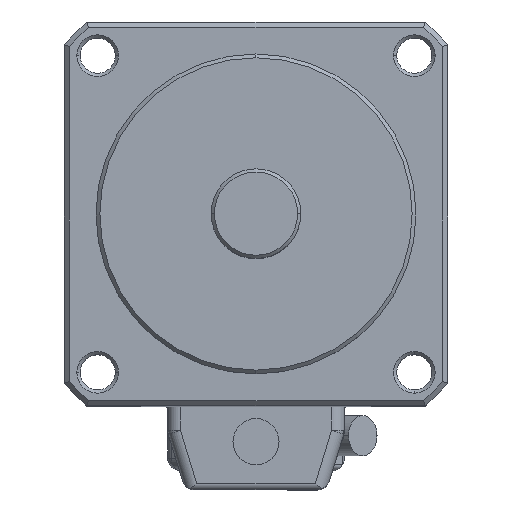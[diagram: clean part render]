
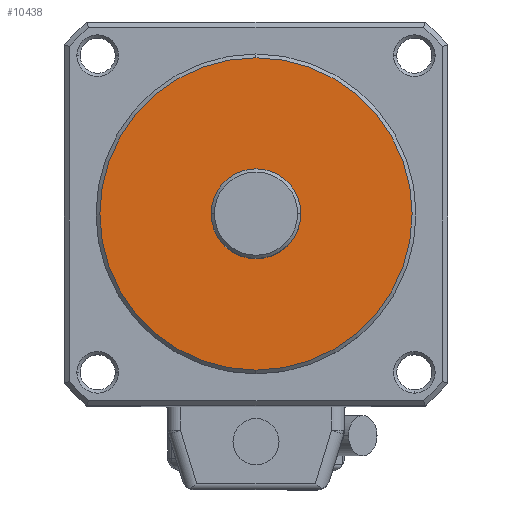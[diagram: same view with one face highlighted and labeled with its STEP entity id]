
A CAD part, top view. The second image highlights one B-rep face of the part: STEP entity #10438.
In plain terms, the highlighted planar face has unit normal (0, 0, 1).
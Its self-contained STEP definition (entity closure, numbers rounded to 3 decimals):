
#356 = AXIS2_PLACEMENT_3D ( 'NONE', #15654, #15655, #15656 ) ;
#371 = AXIS2_PLACEMENT_3D ( 'NONE', #15735, #15736, #15737 ) ;
#827 = CIRCLE ( 'NONE', #371, 24.4 ) ;
#2071 = CIRCLE ( 'NONE', #10970, 24.4 ) ;
#3219 = CARTESIAN_POINT ( 'NONE',  ( 0., 24.4, 3. ) ) ;
#3220 = CARTESIAN_POINT ( 'NONE',  ( 0., -24.4, 3. ) ) ;
#3243 = CARTESIAN_POINT ( 'NONE',  ( -7., 0., 3. ) ) ;
#3244 = CARTESIAN_POINT ( 'NONE',  ( 7., 0., 3. ) ) ;
#4892 = EDGE_CURVE ( 'NONE', #16679, #16678, #9647, .T. ) ;
#4929 = EDGE_CURVE ( 'NONE', #16655, #16654, #2071, .T. ) ;
#5840 = CARTESIAN_POINT ( 'NONE',  ( 0., 0., 3. ) ) ;
#5842 = DIRECTION ( 'NONE',  ( 0., 0., -1. ) ) ;
#5843 = DIRECTION ( 'NONE',  ( 0., 1., 0. ) ) ;
#6091 = AXIS2_PLACEMENT_3D ( 'NONE', #8590, #8591, #8592 ) ;
#7216 = FACE_BOUND ( 'NONE', #9211, .T. ) ;
#7218 = FACE_OUTER_BOUND ( 'NONE', #9210, .T. ) ;
#7712 = CIRCLE ( 'NONE', #356, 7. ) ;
#8589 = PLANE ( 'NONE',  #6091 ) ;
#8590 = CARTESIAN_POINT ( 'NONE',  ( -25.62, -25.62, 3. ) ) ;
#8591 = DIRECTION ( 'NONE',  ( 0., 0., 1. ) ) ;
#8592 = DIRECTION ( 'NONE',  ( 1., 0., 0. ) ) ;
#9210 = EDGE_LOOP ( 'NONE', ( #10018, #10019 ) ) ;
#9211 = EDGE_LOOP ( 'NONE', ( #10016, #10017 ) ) ;
#9289 = CARTESIAN_POINT ( 'NONE',  ( 0., 0., 3. ) ) ;
#9290 = DIRECTION ( 'NONE',  ( 0., 0., -1. ) ) ;
#9291 = DIRECTION ( 'NONE',  ( 1., 0., 0. ) ) ;
#9647 = CIRCLE ( 'NONE', #10949, 7. ) ;
#10016 = ORIENTED_EDGE ( 'NONE', *, *, #4892, .T. ) ;
#10017 = ORIENTED_EDGE ( 'NONE', *, *, #10695, .T. ) ;
#10018 = ORIENTED_EDGE ( 'NONE', *, *, #10728, .F. ) ;
#10019 = ORIENTED_EDGE ( 'NONE', *, *, #4929, .F. ) ;
#10438 = ADVANCED_FACE ( 'NONE', ( #7216, #7218 ), #8589, .T. ) ;
#10695 = EDGE_CURVE ( 'NONE', #16678, #16679, #7712, .T. ) ;
#10728 = EDGE_CURVE ( 'NONE', #16654, #16655, #827, .T. ) ;
#10949 = AXIS2_PLACEMENT_3D ( 'NONE', #9289, #9290, #9291 ) ;
#10970 = AXIS2_PLACEMENT_3D ( 'NONE', #5840, #5842, #5843 ) ;
#15654 = CARTESIAN_POINT ( 'NONE',  ( 0., 0., 3. ) ) ;
#15655 = DIRECTION ( 'NONE',  ( 0., 0., -1. ) ) ;
#15656 = DIRECTION ( 'NONE',  ( 1., 0., 0. ) ) ;
#15735 = CARTESIAN_POINT ( 'NONE',  ( 0., 0., 3. ) ) ;
#15736 = DIRECTION ( 'NONE',  ( 0., 0., -1. ) ) ;
#15737 = DIRECTION ( 'NONE',  ( 0., 1., 0. ) ) ;
#16654 = VERTEX_POINT ( 'NONE', #3219 ) ;
#16655 = VERTEX_POINT ( 'NONE', #3220 ) ;
#16678 = VERTEX_POINT ( 'NONE', #3243 ) ;
#16679 = VERTEX_POINT ( 'NONE', #3244 ) ;
